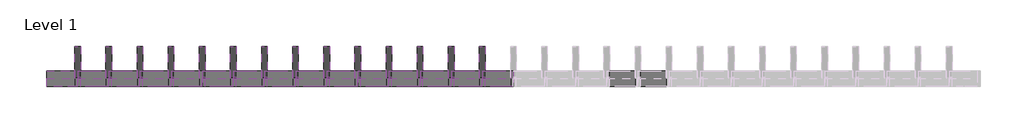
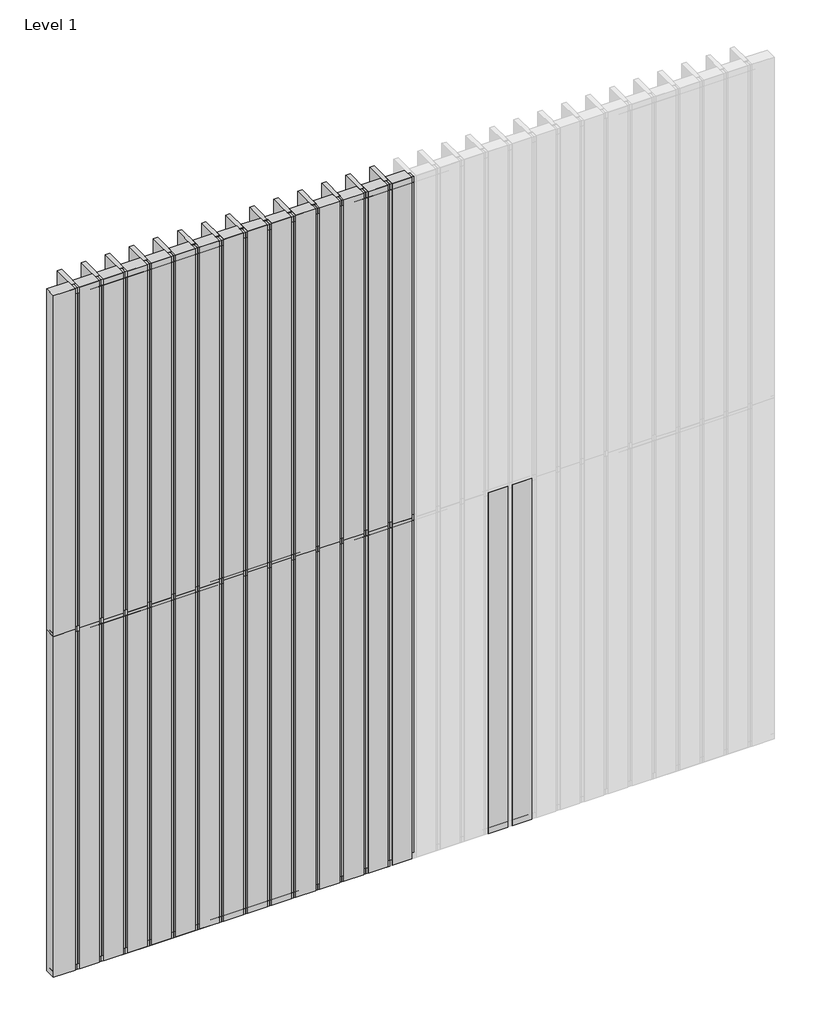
# One storey, part 1 of 2: 72 members, 62 plates.
"""IFC4 building model written with IfcOpenShell, lengths in millimetres."""

from ifc_helpers import new_model, si_unit, origin, place, context, project, spatial, transform, mapped, element, save
from components import rectangular_mullion_20bdfb12, rectangular_mullion_a06afc58, rectangular_mullion_614df7cf, rectangular_mullion_7d91d70c, empty_system_panel_empty_c6c0e791, empty_system_panel_empty_de494967, empty_system_panel_empty_763ef950

model = new_model("IFC4")

# Units and contexts
model_context = context("Model", 3, world=origin())
ifc_project = project(units=[si_unit("LENGTHUNIT", "METRE", prefix="MILLI")], contexts=[model_context])

# Site, building, storey
site = spatial("IfcSite", under=ifc_project)
building = spatial("IfcBuilding", under=site)
storey = spatial("IfcBuildingStorey", under=building, Name="Level 1", Elevation=0.0)

# Members
placement = place(None, origin())
rectangular_mullion_shape = rectangular_mullion_20bdfb12(model_context)
element("IfcMember", 1, ObjectType="Rectangular Mullion : RSen_21_CWM_blade - cubic 200 - 0°_gen_duco projects", at=placement, inside=storey, context=model_context, shape_type="MappedRepresentation", body=[
    mapped(rectangular_mullion_shape, transform((2800.0, 3000.0, 0.0), x_axis=(-1.0, 0.0, 0.0), y_axis=(0.0, 1.0, 0.0), z_axis=(0.0, 0.0, -1.0))),
])
element("IfcMember", 2, ObjectType="Rectangular Mullion : RSen_21_CWM_blade - cubic 200 - 0°_gen_duco projects", at=placement, inside=storey, context=model_context, shape_type="MappedRepresentation", body=[
    mapped(rectangular_mullion_shape, transform((2600.0, 3000.0, 0.0), x_axis=(-1.0, 0.0, 0.0), y_axis=(0.0, 1.0, 0.0), z_axis=(0.0, 0.0, -1.0))),
])
element("IfcMember", 3, ObjectType="Rectangular Mullion : RSen_21_CWM_blade - cubic 200 - 0°_gen_duco projects", at=placement, inside=storey, context=model_context, shape_type="MappedRepresentation", body=[
    mapped(rectangular_mullion_shape, transform((2400.0, 3000.0, 0.0), x_axis=(-1.0, 0.0, 0.0), y_axis=(0.0, 1.0, 0.0), z_axis=(0.0, 0.0, -1.0))),
])
element("IfcMember", 4, ObjectType="Rectangular Mullion : RSen_21_CWM_blade - cubic 200 - 0°_gen_duco projects", at=placement, inside=storey, context=model_context, shape_type="MappedRepresentation", body=[
    mapped(rectangular_mullion_shape, transform((2200.0, 3000.0, 0.0), x_axis=(-1.0, 0.0, 0.0), y_axis=(0.0, 1.0, 0.0), z_axis=(0.0, 0.0, -1.0))),
])
element("IfcMember", 5, ObjectType="Rectangular Mullion : RSen_21_CWM_blade - cubic 200 - 0°_gen_duco projects", at=placement, inside=storey, context=model_context, shape_type="MappedRepresentation", body=[
    mapped(rectangular_mullion_shape, transform((2000.0, 3000.0, 0.0), x_axis=(-1.0, 0.0, 0.0), y_axis=(0.0, 1.0, 0.0), z_axis=(0.0, 0.0, -1.0))),
])
element("IfcMember", 6, ObjectType="Rectangular Mullion : RSen_21_CWM_blade - cubic 200 - 0°_gen_duco projects", at=placement, inside=storey, context=model_context, shape_type="MappedRepresentation", body=[
    mapped(rectangular_mullion_shape, transform((1800.0, 3000.0, 0.0), x_axis=(-1.0, 0.0, 0.0), y_axis=(0.0, 1.0, 0.0), z_axis=(0.0, 0.0, -1.0))),
])
element("IfcMember", 7, ObjectType="Rectangular Mullion : RSen_21_CWM_blade - cubic 200 - 0°_gen_duco projects", at=placement, inside=storey, context=model_context, shape_type="MappedRepresentation", body=[
    mapped(rectangular_mullion_shape, transform((1600.0, 3000.0, 0.0), x_axis=(-1.0, 0.0, 0.0), y_axis=(0.0, 1.0, 0.0), z_axis=(0.0, 0.0, -1.0))),
])
element("IfcMember", 8, ObjectType="Rectangular Mullion : RSen_21_CWM_blade - cubic 200 - 0°_gen_duco projects", at=placement, inside=storey, context=model_context, shape_type="MappedRepresentation", body=[
    mapped(rectangular_mullion_shape, transform((1400.0, 3000.0, 0.0), x_axis=(-1.0, 0.0, 0.0), y_axis=(0.0, 1.0, 0.0), z_axis=(0.0, 0.0, -1.0))),
])
element("IfcMember", 9, ObjectType="Rectangular Mullion : RSen_21_CWM_blade - cubic 200 - 0°_gen_duco projects", at=placement, inside=storey, context=model_context, shape_type="MappedRepresentation", body=[
    mapped(rectangular_mullion_shape, transform((1200.0, 3000.0, 0.0), x_axis=(-1.0, 0.0, 0.0), y_axis=(0.0, 1.0, 0.0), z_axis=(0.0, 0.0, -1.0))),
])
element("IfcMember", 10, ObjectType="Rectangular Mullion : RSen_21_CWM_blade - cubic 200 - 0°_gen_duco projects", at=placement, inside=storey, context=model_context, shape_type="MappedRepresentation", body=[
    mapped(rectangular_mullion_shape, transform((1000.0, 3000.0, 0.0), x_axis=(-1.0, 0.0, 0.0), y_axis=(0.0, 1.0, 0.0), z_axis=(0.0, 0.0, -1.0))),
])
element("IfcMember", 11, ObjectType="Rectangular Mullion : RSen_21_CWM_blade - cubic 200 - 0°_gen_duco projects", at=placement, inside=storey, context=model_context, shape_type="MappedRepresentation", body=[
    mapped(rectangular_mullion_shape, transform((800.0, 3000.0, 0.0), x_axis=(-1.0, 0.0, 0.0), y_axis=(0.0, 1.0, 0.0), z_axis=(0.0, 0.0, -1.0))),
])
element("IfcMember", 12, ObjectType="Rectangular Mullion : RSen_21_CWM_blade - cubic 200 - 0°_gen_duco projects", at=placement, inside=storey, context=model_context, shape_type="MappedRepresentation", body=[
    mapped(rectangular_mullion_shape, transform((600.0, 3000.0, 0.0), x_axis=(-1.0, 0.0, 0.0), y_axis=(0.0, 1.0, 0.0), z_axis=(0.0, 0.0, -1.0))),
])
element("IfcMember", 13, ObjectType="Rectangular Mullion : RSen_21_CWM_blade - cubic 200 - 0°_gen_duco projects", at=placement, inside=storey, context=model_context, shape_type="MappedRepresentation", body=[
    mapped(rectangular_mullion_shape, transform((400.0, 3000.0, 0.0), x_axis=(-1.0, 0.0, 0.0), y_axis=(0.0, 1.0, 0.0), z_axis=(0.0, 0.0, -1.0))),
])
element("IfcMember", 14, ObjectType="Rectangular Mullion : RSen_21_CWM_blade - cubic 200 - 0°_gen_duco projects", at=placement, inside=storey, context=model_context, shape_type="MappedRepresentation", body=[
    mapped(rectangular_mullion_shape, transform((200.0, 3000.0, 0.0), x_axis=(-1.0, 0.0, 0.0), y_axis=(0.0, 1.0, 0.0), z_axis=(0.0, 0.0, -1.0))),
])
element("IfcMember", 15, ObjectType="Rectangular Mullion : RSen_21_CWM_blade - cubic 200 - 0°_gen_duco projects", at=placement, inside=storey, context=model_context, shape_type="MappedRepresentation", body=[
    mapped(rectangular_mullion_shape, transform((2800.0, 3000.0, 3000.0), x_axis=(-1.0, 0.0, 0.0), y_axis=(0.0, 1.0, 0.0), z_axis=(0.0, 0.0, -1.0))),
])
element("IfcMember", 16, ObjectType="Rectangular Mullion : RSen_21_CWM_blade - cubic 200 - 0°_gen_duco projects", at=placement, inside=storey, context=model_context, shape_type="MappedRepresentation", body=[
    mapped(rectangular_mullion_shape, transform((2600.0, 3000.0, 3000.0), x_axis=(-1.0, 0.0, 0.0), y_axis=(0.0, 1.0, 0.0), z_axis=(0.0, 0.0, -1.0))),
])
element("IfcMember", 17, ObjectType="Rectangular Mullion : RSen_21_CWM_blade - cubic 200 - 0°_gen_duco projects", at=placement, inside=storey, context=model_context, shape_type="MappedRepresentation", body=[
    mapped(rectangular_mullion_shape, transform((2400.0, 3000.0, 3000.0), x_axis=(-1.0, 0.0, 0.0), y_axis=(0.0, 1.0, 0.0), z_axis=(0.0, 0.0, -1.0))),
])
element("IfcMember", 18, ObjectType="Rectangular Mullion : RSen_21_CWM_blade - cubic 200 - 0°_gen_duco projects", at=placement, inside=storey, context=model_context, shape_type="MappedRepresentation", body=[
    mapped(rectangular_mullion_shape, transform((2200.0, 3000.0, 3000.0), x_axis=(-1.0, 0.0, 0.0), y_axis=(0.0, 1.0, 0.0), z_axis=(0.0, 0.0, -1.0))),
])
element("IfcMember", 19, ObjectType="Rectangular Mullion : RSen_21_CWM_blade - cubic 200 - 0°_gen_duco projects", at=placement, inside=storey, context=model_context, shape_type="MappedRepresentation", body=[
    mapped(rectangular_mullion_shape, transform((2000.0, 3000.0, 3000.0), x_axis=(-1.0, 0.0, 0.0), y_axis=(0.0, 1.0, 0.0), z_axis=(0.0, 0.0, -1.0))),
])
element("IfcMember", 20, ObjectType="Rectangular Mullion : RSen_21_CWM_blade - cubic 200 - 0°_gen_duco projects", at=placement, inside=storey, context=model_context, shape_type="MappedRepresentation", body=[
    mapped(rectangular_mullion_shape, transform((1800.0, 3000.0, 3000.0), x_axis=(-1.0, 0.0, 0.0), y_axis=(0.0, 1.0, 0.0), z_axis=(0.0, 0.0, -1.0))),
])
element("IfcMember", 21, ObjectType="Rectangular Mullion : RSen_21_CWM_blade - cubic 200 - 0°_gen_duco projects", at=placement, inside=storey, context=model_context, shape_type="MappedRepresentation", body=[
    mapped(rectangular_mullion_shape, transform((1600.0, 3000.0, 3000.0), x_axis=(-1.0, 0.0, 0.0), y_axis=(0.0, 1.0, 0.0), z_axis=(0.0, 0.0, -1.0))),
])
element("IfcMember", 22, ObjectType="Rectangular Mullion : RSen_21_CWM_blade - cubic 200 - 0°_gen_duco projects", at=placement, inside=storey, context=model_context, shape_type="MappedRepresentation", body=[
    mapped(rectangular_mullion_shape, transform((1400.0, 3000.0, 3000.0), x_axis=(-1.0, 0.0, 0.0), y_axis=(0.0, 1.0, 0.0), z_axis=(0.0, 0.0, -1.0))),
])
element("IfcMember", 23, ObjectType="Rectangular Mullion : RSen_21_CWM_blade - cubic 200 - 0°_gen_duco projects", at=placement, inside=storey, context=model_context, shape_type="MappedRepresentation", body=[
    mapped(rectangular_mullion_shape, transform((1200.0, 3000.0, 3000.0), x_axis=(-1.0, 0.0, 0.0), y_axis=(0.0, 1.0, 0.0), z_axis=(0.0, 0.0, -1.0))),
])
element("IfcMember", 24, ObjectType="Rectangular Mullion : RSen_21_CWM_blade - cubic 200 - 0°_gen_duco projects", at=placement, inside=storey, context=model_context, shape_type="MappedRepresentation", body=[
    mapped(rectangular_mullion_shape, transform((1000.0, 3000.0, 3000.0), x_axis=(-1.0, 0.0, 0.0), y_axis=(0.0, 1.0, 0.0), z_axis=(0.0, 0.0, -1.0))),
])
element("IfcMember", 25, ObjectType="Rectangular Mullion : RSen_21_CWM_blade - cubic 200 - 0°_gen_duco projects", at=placement, inside=storey, context=model_context, shape_type="MappedRepresentation", body=[
    mapped(rectangular_mullion_shape, transform((800.0, 3000.0, 3000.0), x_axis=(-1.0, 0.0, 0.0), y_axis=(0.0, 1.0, 0.0), z_axis=(0.0, 0.0, -1.0))),
])
element("IfcMember", 26, ObjectType="Rectangular Mullion : RSen_21_CWM_blade - cubic 200 - 0°_gen_duco projects", at=placement, inside=storey, context=model_context, shape_type="MappedRepresentation", body=[
    mapped(rectangular_mullion_shape, transform((600.0, 3000.0, 3000.0), x_axis=(-1.0, 0.0, 0.0), y_axis=(0.0, 1.0, 0.0), z_axis=(0.0, 0.0, -1.0))),
])
element("IfcMember", 27, ObjectType="Rectangular Mullion : RSen_21_CWM_blade - cubic 200 - 0°_gen_duco projects", at=placement, inside=storey, context=model_context, shape_type="MappedRepresentation", body=[
    mapped(rectangular_mullion_shape, transform((400.0, 3000.0, 3000.0), x_axis=(-1.0, 0.0, 0.0), y_axis=(0.0, 1.0, 0.0), z_axis=(0.0, 0.0, -1.0))),
])
element("IfcMember", 28, ObjectType="Rectangular Mullion : RSen_21_CWM_blade - cubic 200 - 0°_gen_duco projects", at=placement, inside=storey, context=model_context, shape_type="MappedRepresentation", body=[
    mapped(rectangular_mullion_shape, transform((200.0, 3000.0, 3000.0), x_axis=(-1.0, 0.0, 0.0), y_axis=(0.0, 1.0, 0.0), z_axis=(0.0, 0.0, -1.0))),
])
rectangular_mullion_2_shape = rectangular_mullion_a06afc58(model_context)
element("IfcMember", 29, ObjectType="Rectangular Mullion : RSen_21_CWM_support profile 50x50 - left_gen_duco projects", at=placement, inside=storey, context=model_context, shape_type="MappedRepresentation", body=[
    mapped(rectangular_mullion_2_shape, transform((0.0, 3000.0, 6000.0), x_axis=(0.0, 0.0, 1.0), y_axis=(0.0, 1.0, 0.0), z_axis=(-1.0, 0.0, 0.0))),
])
element("IfcMember", 30, ObjectType="Rectangular Mullion : RSen_21_CWM_support profile 50x50 - left_gen_duco projects", at=placement, inside=storey, context=model_context, shape_type="MappedRepresentation", body=[
    mapped(rectangular_mullion_2_shape, transform((2800.0, 3000.0, 6000.0), x_axis=(0.0, 0.0, 1.0), y_axis=(0.0, 1.0, 0.0), z_axis=(-1.0, 0.0, 0.0))),
])
element("IfcMember", 31, ObjectType="Rectangular Mullion : RSen_21_CWM_support profile 50x50 - left_gen_duco projects", at=placement, inside=storey, context=model_context, shape_type="MappedRepresentation", body=[
    mapped(rectangular_mullion_2_shape, transform((2600.0, 3000.0, 6000.0), x_axis=(0.0, 0.0, 1.0), y_axis=(0.0, 1.0, 0.0), z_axis=(-1.0, 0.0, 0.0))),
])
element("IfcMember", 32, ObjectType="Rectangular Mullion : RSen_21_CWM_support profile 50x50 - left_gen_duco projects", at=placement, inside=storey, context=model_context, shape_type="MappedRepresentation", body=[
    mapped(rectangular_mullion_2_shape, transform((2400.0, 3000.0, 6000.0), x_axis=(0.0, 0.0, 1.0), y_axis=(0.0, 1.0, 0.0), z_axis=(-1.0, 0.0, 0.0))),
])
element("IfcMember", 33, ObjectType="Rectangular Mullion : RSen_21_CWM_support profile 50x50 - left_gen_duco projects", at=placement, inside=storey, context=model_context, shape_type="MappedRepresentation", body=[
    mapped(rectangular_mullion_2_shape, transform((2200.0, 3000.0, 6000.0), x_axis=(0.0, 0.0, 1.0), y_axis=(0.0, 1.0, 0.0), z_axis=(-1.0, 0.0, 0.0))),
])
element("IfcMember", 34, ObjectType="Rectangular Mullion : RSen_21_CWM_support profile 50x50 - left_gen_duco projects", at=placement, inside=storey, context=model_context, shape_type="MappedRepresentation", body=[
    mapped(rectangular_mullion_2_shape, transform((2000.0, 3000.0, 6000.0), x_axis=(0.0, 0.0, 1.0), y_axis=(0.0, 1.0, 0.0), z_axis=(-1.0, 0.0, 0.0))),
])
element("IfcMember", 35, ObjectType="Rectangular Mullion : RSen_21_CWM_support profile 50x50 - left_gen_duco projects", at=placement, inside=storey, context=model_context, shape_type="MappedRepresentation", body=[
    mapped(rectangular_mullion_2_shape, transform((1800.0, 3000.0, 6000.0), x_axis=(0.0, 0.0, 1.0), y_axis=(0.0, 1.0, 0.0), z_axis=(-1.0, 0.0, 0.0))),
])
element("IfcMember", 36, ObjectType="Rectangular Mullion : RSen_21_CWM_support profile 50x50 - left_gen_duco projects", at=placement, inside=storey, context=model_context, shape_type="MappedRepresentation", body=[
    mapped(rectangular_mullion_2_shape, transform((1600.0, 3000.0, 6000.0), x_axis=(0.0, 0.0, 1.0), y_axis=(0.0, 1.0, 0.0), z_axis=(-1.0, 0.0, 0.0))),
])
element("IfcMember", 37, ObjectType="Rectangular Mullion : RSen_21_CWM_support profile 50x50 - left_gen_duco projects", at=placement, inside=storey, context=model_context, shape_type="MappedRepresentation", body=[
    mapped(rectangular_mullion_2_shape, transform((1400.0, 3000.0, 6000.0), x_axis=(0.0, 0.0, 1.0), y_axis=(0.0, 1.0, 0.0), z_axis=(-1.0, 0.0, 0.0))),
])
element("IfcMember", 38, ObjectType="Rectangular Mullion : RSen_21_CWM_support profile 50x50 - left_gen_duco projects", at=placement, inside=storey, context=model_context, shape_type="MappedRepresentation", body=[
    mapped(rectangular_mullion_2_shape, transform((1200.0, 3000.0, 6000.0), x_axis=(0.0, 0.0, 1.0), y_axis=(0.0, 1.0, 0.0), z_axis=(-1.0, 0.0, 0.0))),
])
element("IfcMember", 39, ObjectType="Rectangular Mullion : RSen_21_CWM_support profile 50x50 - left_gen_duco projects", at=placement, inside=storey, context=model_context, shape_type="MappedRepresentation", body=[
    mapped(rectangular_mullion_2_shape, transform((1000.0, 3000.0, 6000.0), x_axis=(0.0, 0.0, 1.0), y_axis=(0.0, 1.0, 0.0), z_axis=(-1.0, 0.0, 0.0))),
])
element("IfcMember", 40, ObjectType="Rectangular Mullion : RSen_21_CWM_support profile 50x50 - left_gen_duco projects", at=placement, inside=storey, context=model_context, shape_type="MappedRepresentation", body=[
    mapped(rectangular_mullion_2_shape, transform((800.0, 3000.0, 6000.0), x_axis=(0.0, 0.0, 1.0), y_axis=(0.0, 1.0, 0.0), z_axis=(-1.0, 0.0, 0.0))),
])
element("IfcMember", 41, ObjectType="Rectangular Mullion : RSen_21_CWM_support profile 50x50 - left_gen_duco projects", at=placement, inside=storey, context=model_context, shape_type="MappedRepresentation", body=[
    mapped(rectangular_mullion_2_shape, transform((600.0, 3000.0, 6000.0), x_axis=(0.0, 0.0, 1.0), y_axis=(0.0, 1.0, 0.0), z_axis=(-1.0, 0.0, 0.0))),
])
element("IfcMember", 42, ObjectType="Rectangular Mullion : RSen_21_CWM_support profile 50x50 - left_gen_duco projects", at=placement, inside=storey, context=model_context, shape_type="MappedRepresentation", body=[
    mapped(rectangular_mullion_2_shape, transform((400.0, 3000.0, 6000.0), x_axis=(0.0, 0.0, 1.0), y_axis=(0.0, 1.0, 0.0), z_axis=(-1.0, 0.0, 0.0))),
])
element("IfcMember", 43, ObjectType="Rectangular Mullion : RSen_21_CWM_support profile 50x50 - left_gen_duco projects", at=placement, inside=storey, context=model_context, shape_type="MappedRepresentation", body=[
    mapped(rectangular_mullion_2_shape, transform((200.0, 3000.0, 6000.0), x_axis=(0.0, 0.0, 1.0), y_axis=(0.0, 1.0, 0.0), z_axis=(-1.0, 0.0, 0.0))),
])
rectangular_mullion_3_shape = rectangular_mullion_614df7cf(model_context)
element("IfcMember", 44, ObjectType="Rectangular Mullion : RSen_21_CWM_support profile 50x50 - right_gen_duco projects", at=placement, inside=storey, context=model_context, shape_type="MappedRepresentation", body=[
    mapped(rectangular_mullion_3_shape, transform((2800.0, 3000.0, 0.0), x_axis=(0.0, 0.0, -1.0), y_axis=(0.0, 1.0, 0.0), z_axis=(1.0, 0.0, 0.0))),
])
element("IfcMember", 45, ObjectType="Rectangular Mullion : RSen_21_CWM_support profile 50x50 - right_gen_duco projects", at=placement, inside=storey, context=model_context, shape_type="MappedRepresentation", body=[
    mapped(rectangular_mullion_3_shape, transform((2600.0, 3000.0, 0.0), x_axis=(0.0, 0.0, -1.0), y_axis=(0.0, 1.0, 0.0), z_axis=(1.0, 0.0, 0.0))),
])
element("IfcMember", 46, ObjectType="Rectangular Mullion : RSen_21_CWM_support profile 50x50 - right_gen_duco projects", at=placement, inside=storey, context=model_context, shape_type="MappedRepresentation", body=[
    mapped(rectangular_mullion_3_shape, transform((2400.0, 3000.0, 0.0), x_axis=(0.0, 0.0, -1.0), y_axis=(0.0, 1.0, 0.0), z_axis=(1.0, 0.0, 0.0))),
])
element("IfcMember", 47, ObjectType="Rectangular Mullion : RSen_21_CWM_support profile 50x50 - right_gen_duco projects", at=placement, inside=storey, context=model_context, shape_type="MappedRepresentation", body=[
    mapped(rectangular_mullion_3_shape, transform((2200.0, 3000.0, 0.0), x_axis=(0.0, 0.0, -1.0), y_axis=(0.0, 1.0, 0.0), z_axis=(1.0, 0.0, 0.0))),
])
element("IfcMember", 48, ObjectType="Rectangular Mullion : RSen_21_CWM_support profile 50x50 - right_gen_duco projects", at=placement, inside=storey, context=model_context, shape_type="MappedRepresentation", body=[
    mapped(rectangular_mullion_3_shape, transform((2000.0, 3000.0, 0.0), x_axis=(0.0, 0.0, -1.0), y_axis=(0.0, 1.0, 0.0), z_axis=(1.0, 0.0, 0.0))),
])
element("IfcMember", 49, ObjectType="Rectangular Mullion : RSen_21_CWM_support profile 50x50 - right_gen_duco projects", at=placement, inside=storey, context=model_context, shape_type="MappedRepresentation", body=[
    mapped(rectangular_mullion_3_shape, transform((1800.0, 3000.0, 0.0), x_axis=(0.0, 0.0, -1.0), y_axis=(0.0, 1.0, 0.0), z_axis=(1.0, 0.0, 0.0))),
])
element("IfcMember", 50, ObjectType="Rectangular Mullion : RSen_21_CWM_support profile 50x50 - right_gen_duco projects", at=placement, inside=storey, context=model_context, shape_type="MappedRepresentation", body=[
    mapped(rectangular_mullion_3_shape, transform((1600.0, 3000.0, 0.0), x_axis=(0.0, 0.0, -1.0), y_axis=(0.0, 1.0, 0.0), z_axis=(1.0, 0.0, 0.0))),
])
element("IfcMember", 51, ObjectType="Rectangular Mullion : RSen_21_CWM_support profile 50x50 - right_gen_duco projects", at=placement, inside=storey, context=model_context, shape_type="MappedRepresentation", body=[
    mapped(rectangular_mullion_3_shape, transform((1400.0, 3000.0, 0.0), x_axis=(0.0, 0.0, -1.0), y_axis=(0.0, 1.0, 0.0), z_axis=(1.0, 0.0, 0.0))),
])
element("IfcMember", 52, ObjectType="Rectangular Mullion : RSen_21_CWM_support profile 50x50 - right_gen_duco projects", at=placement, inside=storey, context=model_context, shape_type="MappedRepresentation", body=[
    mapped(rectangular_mullion_3_shape, transform((1200.0, 3000.0, 0.0), x_axis=(0.0, 0.0, -1.0), y_axis=(0.0, 1.0, 0.0), z_axis=(1.0, 0.0, 0.0))),
])
element("IfcMember", 53, ObjectType="Rectangular Mullion : RSen_21_CWM_support profile 50x50 - right_gen_duco projects", at=placement, inside=storey, context=model_context, shape_type="MappedRepresentation", body=[
    mapped(rectangular_mullion_3_shape, transform((1000.0, 3000.0, 0.0), x_axis=(0.0, 0.0, -1.0), y_axis=(0.0, 1.0, 0.0), z_axis=(1.0, 0.0, 0.0))),
])
element("IfcMember", 54, ObjectType="Rectangular Mullion : RSen_21_CWM_support profile 50x50 - right_gen_duco projects", at=placement, inside=storey, context=model_context, shape_type="MappedRepresentation", body=[
    mapped(rectangular_mullion_3_shape, transform((800.0, 3000.0, 0.0), x_axis=(0.0, 0.0, -1.0), y_axis=(0.0, 1.0, 0.0), z_axis=(1.0, 0.0, 0.0))),
])
element("IfcMember", 55, ObjectType="Rectangular Mullion : RSen_21_CWM_support profile 50x50 - right_gen_duco projects", at=placement, inside=storey, context=model_context, shape_type="MappedRepresentation", body=[
    mapped(rectangular_mullion_3_shape, transform((600.0, 3000.0, 0.0), x_axis=(0.0, 0.0, -1.0), y_axis=(0.0, 1.0, 0.0), z_axis=(1.0, 0.0, 0.0))),
])
element("IfcMember", 56, ObjectType="Rectangular Mullion : RSen_21_CWM_support profile 50x50 - right_gen_duco projects", at=placement, inside=storey, context=model_context, shape_type="MappedRepresentation", body=[
    mapped(rectangular_mullion_3_shape, transform((400.0, 3000.0, 0.0), x_axis=(0.0, 0.0, -1.0), y_axis=(0.0, 1.0, 0.0), z_axis=(1.0, 0.0, 0.0))),
])
element("IfcMember", 57, ObjectType="Rectangular Mullion : RSen_21_CWM_support profile 50x50 - right_gen_duco projects", at=placement, inside=storey, context=model_context, shape_type="MappedRepresentation", body=[
    mapped(rectangular_mullion_3_shape, transform((200.0, 3000.0, 0.0), x_axis=(0.0, 0.0, -1.0), y_axis=(0.0, 1.0, 0.0), z_axis=(1.0, 0.0, 0.0))),
])
rectangular_mullion_4_shape = rectangular_mullion_7d91d70c(model_context)
element("IfcMember", 58, ObjectType="Rectangular Mullion : RSen_21_CWM_support profile 50x50_gen_duco projects", at=placement, inside=storey, context=model_context, shape_type="MappedRepresentation", body=[
    mapped(rectangular_mullion_4_shape, transform((2800.0, 3000.0, 3000.0), x_axis=(0.0, 0.0, 1.0), y_axis=(0.0, 1.0, 0.0), z_axis=(-1.0, 0.0, 0.0))),
])
element("IfcMember", 59, ObjectType="Rectangular Mullion : RSen_21_CWM_support profile 50x50_gen_duco projects", at=placement, inside=storey, context=model_context, shape_type="MappedRepresentation", body=[
    mapped(rectangular_mullion_4_shape, transform((2600.0, 3000.0, 3000.0), x_axis=(0.0, 0.0, 1.0), y_axis=(0.0, 1.0, 0.0), z_axis=(-1.0, 0.0, 0.0))),
])
element("IfcMember", 60, ObjectType="Rectangular Mullion : RSen_21_CWM_support profile 50x50_gen_duco projects", at=placement, inside=storey, context=model_context, shape_type="MappedRepresentation", body=[
    mapped(rectangular_mullion_4_shape, transform((2400.0, 3000.0, 3000.0), x_axis=(0.0, 0.0, 1.0), y_axis=(0.0, 1.0, 0.0), z_axis=(-1.0, 0.0, 0.0))),
])
element("IfcMember", 61, ObjectType="Rectangular Mullion : RSen_21_CWM_support profile 50x50_gen_duco projects", at=placement, inside=storey, context=model_context, shape_type="MappedRepresentation", body=[
    mapped(rectangular_mullion_4_shape, transform((2200.0, 3000.0, 3000.0), x_axis=(0.0, 0.0, 1.0), y_axis=(0.0, 1.0, 0.0), z_axis=(-1.0, 0.0, 0.0))),
])
element("IfcMember", 62, ObjectType="Rectangular Mullion : RSen_21_CWM_support profile 50x50_gen_duco projects", at=placement, inside=storey, context=model_context, shape_type="MappedRepresentation", body=[
    mapped(rectangular_mullion_4_shape, transform((2000.0, 3000.0, 3000.0), x_axis=(0.0, 0.0, 1.0), y_axis=(0.0, 1.0, 0.0), z_axis=(-1.0, 0.0, 0.0))),
])
element("IfcMember", 63, ObjectType="Rectangular Mullion : RSen_21_CWM_support profile 50x50_gen_duco projects", at=placement, inside=storey, context=model_context, shape_type="MappedRepresentation", body=[
    mapped(rectangular_mullion_4_shape, transform((1800.0, 3000.0, 3000.0), x_axis=(0.0, 0.0, 1.0), y_axis=(0.0, 1.0, 0.0), z_axis=(-1.0, 0.0, 0.0))),
])
element("IfcMember", 64, ObjectType="Rectangular Mullion : RSen_21_CWM_support profile 50x50_gen_duco projects", at=placement, inside=storey, context=model_context, shape_type="MappedRepresentation", body=[
    mapped(rectangular_mullion_4_shape, transform((1600.0, 3000.0, 3000.0), x_axis=(0.0, 0.0, 1.0), y_axis=(0.0, 1.0, 0.0), z_axis=(-1.0, 0.0, 0.0))),
])
element("IfcMember", 65, ObjectType="Rectangular Mullion : RSen_21_CWM_support profile 50x50_gen_duco projects", at=placement, inside=storey, context=model_context, shape_type="MappedRepresentation", body=[
    mapped(rectangular_mullion_4_shape, transform((1400.0, 3000.0, 3000.0), x_axis=(0.0, 0.0, 1.0), y_axis=(0.0, 1.0, 0.0), z_axis=(-1.0, 0.0, 0.0))),
])
element("IfcMember", 66, ObjectType="Rectangular Mullion : RSen_21_CWM_support profile 50x50_gen_duco projects", at=placement, inside=storey, context=model_context, shape_type="MappedRepresentation", body=[
    mapped(rectangular_mullion_4_shape, transform((1200.0, 3000.0, 3000.0), x_axis=(0.0, 0.0, 1.0), y_axis=(0.0, 1.0, 0.0), z_axis=(-1.0, 0.0, 0.0))),
])
element("IfcMember", 67, ObjectType="Rectangular Mullion : RSen_21_CWM_support profile 50x50_gen_duco projects", at=placement, inside=storey, context=model_context, shape_type="MappedRepresentation", body=[
    mapped(rectangular_mullion_4_shape, transform((1000.0, 3000.0, 3000.0), x_axis=(0.0, 0.0, 1.0), y_axis=(0.0, 1.0, 0.0), z_axis=(-1.0, 0.0, 0.0))),
])
element("IfcMember", 68, ObjectType="Rectangular Mullion : RSen_21_CWM_support profile 50x50_gen_duco projects", at=placement, inside=storey, context=model_context, shape_type="MappedRepresentation", body=[
    mapped(rectangular_mullion_4_shape, transform((800.0, 3000.0, 3000.0), x_axis=(0.0, 0.0, 1.0), y_axis=(0.0, 1.0, 0.0), z_axis=(-1.0, 0.0, 0.0))),
])
element("IfcMember", 69, ObjectType="Rectangular Mullion : RSen_21_CWM_support profile 50x50_gen_duco projects", at=placement, inside=storey, context=model_context, shape_type="MappedRepresentation", body=[
    mapped(rectangular_mullion_4_shape, transform((600.0, 3000.0, 3000.0), x_axis=(0.0, 0.0, 1.0), y_axis=(0.0, 1.0, 0.0), z_axis=(-1.0, 0.0, 0.0))),
])
element("IfcMember", 70, ObjectType="Rectangular Mullion : RSen_21_CWM_support profile 50x50_gen_duco projects", at=placement, inside=storey, context=model_context, shape_type="MappedRepresentation", body=[
    mapped(rectangular_mullion_4_shape, transform((400.0, 3000.0, 3000.0), x_axis=(0.0, 0.0, 1.0), y_axis=(0.0, 1.0, 0.0), z_axis=(-1.0, 0.0, 0.0))),
])
element("IfcMember", 71, ObjectType="Rectangular Mullion : RSen_21_CWM_support profile 50x50_gen_duco projects", at=placement, inside=storey, context=model_context, shape_type="MappedRepresentation", body=[
    mapped(rectangular_mullion_4_shape, transform((200.0, 3000.0, 3000.0), x_axis=(0.0, 0.0, 1.0), y_axis=(0.0, 1.0, 0.0), z_axis=(-1.0, 0.0, 0.0))),
])
element("IfcMember", 72, ObjectType="Rectangular Mullion : RSen_21_CWM_support profile 50x50_gen_duco projects", at=placement, inside=storey, context=model_context, shape_type="MappedRepresentation", body=[
    mapped(rectangular_mullion_4_shape, transform((0.0, 3000.0, 3000.0), x_axis=(0.0, 0.0, 1.0), y_axis=(0.0, 1.0, 0.0), z_axis=(-1.0, 0.0, 0.0))),
])

# Plates
empty_system_panel_empty_shape = empty_system_panel_empty_c6c0e791(model_context)
element("IfcPlate", 73, ObjectType="Empty System Panel : Empty", at=placement, inside=storey, context=model_context, shape_type="MappedRepresentation", body=[
    mapped(empty_system_panel_empty_shape, transform((90.75, 3000.0, 0.0), x_axis=(-1.0, 0.0, 0.0), y_axis=(0.0, -1.0, 0.0), z_axis=(0.0, 0.0, 1.0))),
])
element("IfcPlate", 74, ObjectType="Empty System Panel : Empty", at=placement, inside=storey, context=model_context, shape_type="MappedRepresentation", body=[
    mapped(empty_system_panel_empty_shape, transform((90.75, 3000.0, 3000.0), x_axis=(-1.0, 0.0, 0.0), y_axis=(0.0, -1.0, 0.0), z_axis=(0.0, 0.0, 1.0))),
])
empty_system_panel_empty_2_shape = empty_system_panel_empty_de494967(model_context)
element("IfcPlate", 75, ObjectType="Empty System Panel : Empty", at=placement, inside=storey, context=model_context, shape_type="MappedRepresentation", body=[
    mapped(empty_system_panel_empty_2_shape, transform((3900.0, 3000.0, 0.0), x_axis=(-1.0, 0.0, 0.0), y_axis=(0.0, -1.0, 0.0), z_axis=(0.0, 0.0, 1.0))),
])
element("IfcPlate", 76, ObjectType="Empty System Panel : Empty", at=placement, inside=storey, context=model_context, shape_type="MappedRepresentation", body=[
    mapped(empty_system_panel_empty_2_shape, transform((3700.0, 3000.0, 0.0), x_axis=(-1.0, 0.0, 0.0), y_axis=(0.0, -1.0, 0.0), z_axis=(0.0, 0.0, 1.0))),
])
element("IfcPlate", 77, ObjectType="Empty System Panel : Empty", at=placement, inside=storey, context=model_context, shape_type="MappedRepresentation", body=[
    mapped(empty_system_panel_empty_2_shape, transform((2900.0, 3000.0, 0.0), x_axis=(-1.0, 0.0, 0.0), y_axis=(0.0, -1.0, 0.0), z_axis=(0.0, 0.0, 1.0))),
])
element("IfcPlate", 78, ObjectType="Empty System Panel : Empty", at=placement, inside=storey, context=model_context, shape_type="MappedRepresentation", body=[
    mapped(empty_system_panel_empty_2_shape, transform((2700.0, 3000.0, 0.0), x_axis=(-1.0, 0.0, 0.0), y_axis=(0.0, -1.0, 0.0), z_axis=(0.0, 0.0, 1.0))),
])
element("IfcPlate", 79, ObjectType="Empty System Panel : Empty", at=placement, inside=storey, context=model_context, shape_type="MappedRepresentation", body=[
    mapped(empty_system_panel_empty_2_shape, transform((2500.0, 3000.0, 0.0), x_axis=(-1.0, 0.0, 0.0), y_axis=(0.0, -1.0, 0.0), z_axis=(0.0, 0.0, 1.0))),
])
element("IfcPlate", 80, ObjectType="Empty System Panel : Empty", at=placement, inside=storey, context=model_context, shape_type="MappedRepresentation", body=[
    mapped(empty_system_panel_empty_2_shape, transform((2300.0, 3000.0, 0.0), x_axis=(-1.0, 0.0, 0.0), y_axis=(0.0, -1.0, 0.0), z_axis=(0.0, 0.0, 1.0))),
])
element("IfcPlate", 81, ObjectType="Empty System Panel : Empty", at=placement, inside=storey, context=model_context, shape_type="MappedRepresentation", body=[
    mapped(empty_system_panel_empty_2_shape, transform((2100.0, 3000.0, 0.0), x_axis=(-1.0, 0.0, 0.0), y_axis=(0.0, -1.0, 0.0), z_axis=(0.0, 0.0, 1.0))),
])
element("IfcPlate", 82, ObjectType="Empty System Panel : Empty", at=placement, inside=storey, context=model_context, shape_type="MappedRepresentation", body=[
    mapped(empty_system_panel_empty_2_shape, transform((1900.0, 3000.0, 0.0), x_axis=(-1.0, 0.0, 0.0), y_axis=(0.0, -1.0, 0.0), z_axis=(0.0, 0.0, 1.0))),
])
element("IfcPlate", 83, ObjectType="Empty System Panel : Empty", at=placement, inside=storey, context=model_context, shape_type="MappedRepresentation", body=[
    mapped(empty_system_panel_empty_2_shape, transform((1700.0, 3000.0, 0.0), x_axis=(-1.0, 0.0, 0.0), y_axis=(0.0, -1.0, 0.0), z_axis=(0.0, 0.0, 1.0))),
])
element("IfcPlate", 84, ObjectType="Empty System Panel : Empty", at=placement, inside=storey, context=model_context, shape_type="MappedRepresentation", body=[
    mapped(empty_system_panel_empty_2_shape, transform((1500.0, 3000.0, 0.0), x_axis=(-1.0, 0.0, 0.0), y_axis=(0.0, -1.0, 0.0), z_axis=(0.0, 0.0, 1.0))),
])
element("IfcPlate", 85, ObjectType="Empty System Panel : Empty", at=placement, inside=storey, context=model_context, shape_type="MappedRepresentation", body=[
    mapped(empty_system_panel_empty_2_shape, transform((1300.0, 3000.0, 0.0), x_axis=(-1.0, 0.0, 0.0), y_axis=(0.0, -1.0, 0.0), z_axis=(0.0, 0.0, 1.0))),
])
element("IfcPlate", 86, ObjectType="Empty System Panel : Empty", at=placement, inside=storey, context=model_context, shape_type="MappedRepresentation", body=[
    mapped(empty_system_panel_empty_2_shape, transform((1100.0, 3000.0, 0.0), x_axis=(-1.0, 0.0, 0.0), y_axis=(0.0, -1.0, 0.0), z_axis=(0.0, 0.0, 1.0))),
])
element("IfcPlate", 87, ObjectType="Empty System Panel : Empty", at=placement, inside=storey, context=model_context, shape_type="MappedRepresentation", body=[
    mapped(empty_system_panel_empty_2_shape, transform((900.0, 3000.0, 0.0), x_axis=(-1.0, 0.0, 0.0), y_axis=(0.0, -1.0, 0.0), z_axis=(0.0, 0.0, 1.0))),
])
element("IfcPlate", 88, ObjectType="Empty System Panel : Empty", at=placement, inside=storey, context=model_context, shape_type="MappedRepresentation", body=[
    mapped(empty_system_panel_empty_2_shape, transform((700.0, 3000.0, 0.0), x_axis=(-1.0, 0.0, 0.0), y_axis=(0.0, -1.0, 0.0), z_axis=(0.0, 0.0, 1.0))),
])
element("IfcPlate", 89, ObjectType="Empty System Panel : Empty", at=placement, inside=storey, context=model_context, shape_type="MappedRepresentation", body=[
    mapped(empty_system_panel_empty_2_shape, transform((500.0, 3000.0, 0.0), x_axis=(-1.0, 0.0, 0.0), y_axis=(0.0, -1.0, 0.0), z_axis=(0.0, 0.0, 1.0))),
])
element("IfcPlate", 90, ObjectType="Empty System Panel : Empty", at=placement, inside=storey, context=model_context, shape_type="MappedRepresentation", body=[
    mapped(empty_system_panel_empty_2_shape, transform((300.0, 3000.0, 0.0), x_axis=(-1.0, 0.0, 0.0), y_axis=(0.0, -1.0, 0.0), z_axis=(0.0, 0.0, 1.0))),
])
element("IfcPlate", 91, ObjectType="Empty System Panel : Empty", at=placement, inside=storey, context=model_context, shape_type="MappedRepresentation", body=[
    mapped(empty_system_panel_empty_2_shape, transform((2900.0, 3000.0, 3000.0), x_axis=(-1.0, 0.0, 0.0), y_axis=(0.0, -1.0, 0.0), z_axis=(0.0, 0.0, 1.0))),
])
element("IfcPlate", 92, ObjectType="Empty System Panel : Empty", at=placement, inside=storey, context=model_context, shape_type="MappedRepresentation", body=[
    mapped(empty_system_panel_empty_2_shape, transform((2700.0, 3000.0, 3000.0), x_axis=(-1.0, 0.0, 0.0), y_axis=(0.0, -1.0, 0.0), z_axis=(0.0, 0.0, 1.0))),
])
element("IfcPlate", 93, ObjectType="Empty System Panel : Empty", at=placement, inside=storey, context=model_context, shape_type="MappedRepresentation", body=[
    mapped(empty_system_panel_empty_2_shape, transform((2500.0, 3000.0, 3000.0), x_axis=(-1.0, 0.0, 0.0), y_axis=(0.0, -1.0, 0.0), z_axis=(0.0, 0.0, 1.0))),
])
element("IfcPlate", 94, ObjectType="Empty System Panel : Empty", at=placement, inside=storey, context=model_context, shape_type="MappedRepresentation", body=[
    mapped(empty_system_panel_empty_2_shape, transform((2300.0, 3000.0, 3000.0), x_axis=(-1.0, 0.0, 0.0), y_axis=(0.0, -1.0, 0.0), z_axis=(0.0, 0.0, 1.0))),
])
element("IfcPlate", 95, ObjectType="Empty System Panel : Empty", at=placement, inside=storey, context=model_context, shape_type="MappedRepresentation", body=[
    mapped(empty_system_panel_empty_2_shape, transform((2100.0, 3000.0, 3000.0), x_axis=(-1.0, 0.0, 0.0), y_axis=(0.0, -1.0, 0.0), z_axis=(0.0, 0.0, 1.0))),
])
element("IfcPlate", 96, ObjectType="Empty System Panel : Empty", at=placement, inside=storey, context=model_context, shape_type="MappedRepresentation", body=[
    mapped(empty_system_panel_empty_2_shape, transform((1900.0, 3000.0, 3000.0), x_axis=(-1.0, 0.0, 0.0), y_axis=(0.0, -1.0, 0.0), z_axis=(0.0, 0.0, 1.0))),
])
element("IfcPlate", 97, ObjectType="Empty System Panel : Empty", at=placement, inside=storey, context=model_context, shape_type="MappedRepresentation", body=[
    mapped(empty_system_panel_empty_2_shape, transform((1700.0, 3000.0, 3000.0), x_axis=(-1.0, 0.0, 0.0), y_axis=(0.0, -1.0, 0.0), z_axis=(0.0, 0.0, 1.0))),
])
element("IfcPlate", 98, ObjectType="Empty System Panel : Empty", at=placement, inside=storey, context=model_context, shape_type="MappedRepresentation", body=[
    mapped(empty_system_panel_empty_2_shape, transform((1500.0, 3000.0, 3000.0), x_axis=(-1.0, 0.0, 0.0), y_axis=(0.0, -1.0, 0.0), z_axis=(0.0, 0.0, 1.0))),
])
element("IfcPlate", 99, ObjectType="Empty System Panel : Empty", at=placement, inside=storey, context=model_context, shape_type="MappedRepresentation", body=[
    mapped(empty_system_panel_empty_2_shape, transform((1300.0, 3000.0, 3000.0), x_axis=(-1.0, 0.0, 0.0), y_axis=(0.0, -1.0, 0.0), z_axis=(0.0, 0.0, 1.0))),
])
element("IfcPlate", 100, ObjectType="Empty System Panel : Empty", at=placement, inside=storey, context=model_context, shape_type="MappedRepresentation", body=[
    mapped(empty_system_panel_empty_2_shape, transform((1100.0, 3000.0, 3000.0), x_axis=(-1.0, 0.0, 0.0), y_axis=(0.0, -1.0, 0.0), z_axis=(0.0, 0.0, 1.0))),
])
element("IfcPlate", 101, ObjectType="Empty System Panel : Empty", at=placement, inside=storey, context=model_context, shape_type="MappedRepresentation", body=[
    mapped(empty_system_panel_empty_2_shape, transform((900.0, 3000.0, 3000.0), x_axis=(-1.0, 0.0, 0.0), y_axis=(0.0, -1.0, 0.0), z_axis=(0.0, 0.0, 1.0))),
])
element("IfcPlate", 102, ObjectType="Empty System Panel : Empty", at=placement, inside=storey, context=model_context, shape_type="MappedRepresentation", body=[
    mapped(empty_system_panel_empty_2_shape, transform((700.0, 3000.0, 3000.0), x_axis=(-1.0, 0.0, 0.0), y_axis=(0.0, -1.0, 0.0), z_axis=(0.0, 0.0, 1.0))),
])
element("IfcPlate", 103, ObjectType="Empty System Panel : Empty", at=placement, inside=storey, context=model_context, shape_type="MappedRepresentation", body=[
    mapped(empty_system_panel_empty_2_shape, transform((500.0, 3000.0, 3000.0), x_axis=(-1.0, 0.0, 0.0), y_axis=(0.0, -1.0, 0.0), z_axis=(0.0, 0.0, 1.0))),
])
element("IfcPlate", 104, ObjectType="Empty System Panel : Empty", at=placement, inside=storey, context=model_context, shape_type="MappedRepresentation", body=[
    mapped(empty_system_panel_empty_2_shape, transform((300.0, 3000.0, 3000.0), x_axis=(-1.0, 0.0, 0.0), y_axis=(0.0, -1.0, 0.0), z_axis=(0.0, 0.0, 1.0))),
])
empty_system_panel_empty_3_shape = empty_system_panel_empty_763ef950(model_context)
element("IfcPlate", 105, ObjectType="Empty System Panel : Empty", at=placement, inside=storey, context=model_context, shape_type="MappedRepresentation", body=[
    mapped(empty_system_panel_empty_3_shape, transform((2900.0, 3000.0, 50.0), x_axis=(-1.0, 0.0, 0.0), y_axis=(0.0, -1.0, 0.0), z_axis=(0.0, 0.0, 1.0))),
])
element("IfcPlate", 106, ObjectType="Empty System Panel : Empty", at=placement, inside=storey, context=model_context, shape_type="MappedRepresentation", body=[
    mapped(empty_system_panel_empty_3_shape, transform((2700.0, 3000.0, 50.0), x_axis=(-1.0, 0.0, 0.0), y_axis=(0.0, -1.0, 0.0), z_axis=(0.0, 0.0, 1.0))),
])
element("IfcPlate", 107, ObjectType="Empty System Panel : Empty", at=placement, inside=storey, context=model_context, shape_type="MappedRepresentation", body=[
    mapped(empty_system_panel_empty_3_shape, transform((2500.0, 3000.0, 50.0), x_axis=(-1.0, 0.0, 0.0), y_axis=(0.0, -1.0, 0.0), z_axis=(0.0, 0.0, 1.0))),
])
element("IfcPlate", 108, ObjectType="Empty System Panel : Empty", at=placement, inside=storey, context=model_context, shape_type="MappedRepresentation", body=[
    mapped(empty_system_panel_empty_3_shape, transform((2300.0, 3000.0, 50.0), x_axis=(-1.0, 0.0, 0.0), y_axis=(0.0, -1.0, 0.0), z_axis=(0.0, 0.0, 1.0))),
])
element("IfcPlate", 109, ObjectType="Empty System Panel : Empty", at=placement, inside=storey, context=model_context, shape_type="MappedRepresentation", body=[
    mapped(empty_system_panel_empty_3_shape, transform((2100.0, 3000.0, 50.0), x_axis=(-1.0, 0.0, 0.0), y_axis=(0.0, -1.0, 0.0), z_axis=(0.0, 0.0, 1.0))),
])
element("IfcPlate", 110, ObjectType="Empty System Panel : Empty", at=placement, inside=storey, context=model_context, shape_type="MappedRepresentation", body=[
    mapped(empty_system_panel_empty_3_shape, transform((1900.0, 3000.0, 50.0), x_axis=(-1.0, 0.0, 0.0), y_axis=(0.0, -1.0, 0.0), z_axis=(0.0, 0.0, 1.0))),
])
element("IfcPlate", 111, ObjectType="Empty System Panel : Empty", at=placement, inside=storey, context=model_context, shape_type="MappedRepresentation", body=[
    mapped(empty_system_panel_empty_3_shape, transform((1700.0, 3000.0, 50.0), x_axis=(-1.0, 0.0, 0.0), y_axis=(0.0, -1.0, 0.0), z_axis=(0.0, 0.0, 1.0))),
])
element("IfcPlate", 112, ObjectType="Empty System Panel : Empty", at=placement, inside=storey, context=model_context, shape_type="MappedRepresentation", body=[
    mapped(empty_system_panel_empty_3_shape, transform((1500.0, 3000.0, 50.0), x_axis=(-1.0, 0.0, 0.0), y_axis=(0.0, -1.0, 0.0), z_axis=(0.0, 0.0, 1.0))),
])
element("IfcPlate", 113, ObjectType="Empty System Panel : Empty", at=placement, inside=storey, context=model_context, shape_type="MappedRepresentation", body=[
    mapped(empty_system_panel_empty_3_shape, transform((1300.0, 3000.0, 50.0), x_axis=(-1.0, 0.0, 0.0), y_axis=(0.0, -1.0, 0.0), z_axis=(0.0, 0.0, 1.0))),
])
element("IfcPlate", 114, ObjectType="Empty System Panel : Empty", at=placement, inside=storey, context=model_context, shape_type="MappedRepresentation", body=[
    mapped(empty_system_panel_empty_3_shape, transform((1100.0, 3000.0, 50.0), x_axis=(-1.0, 0.0, 0.0), y_axis=(0.0, -1.0, 0.0), z_axis=(0.0, 0.0, 1.0))),
])
element("IfcPlate", 115, ObjectType="Empty System Panel : Empty", at=placement, inside=storey, context=model_context, shape_type="MappedRepresentation", body=[
    mapped(empty_system_panel_empty_3_shape, transform((900.0, 3000.0, 50.0), x_axis=(-1.0, 0.0, 0.0), y_axis=(0.0, -1.0, 0.0), z_axis=(0.0, 0.0, 1.0))),
])
element("IfcPlate", 116, ObjectType="Empty System Panel : Empty", at=placement, inside=storey, context=model_context, shape_type="MappedRepresentation", body=[
    mapped(empty_system_panel_empty_3_shape, transform((700.0, 3000.0, 50.0), x_axis=(-1.0, 0.0, 0.0), y_axis=(0.0, -1.0, 0.0), z_axis=(0.0, 0.0, 1.0))),
])
element("IfcPlate", 117, ObjectType="Empty System Panel : Empty", at=placement, inside=storey, context=model_context, shape_type="MappedRepresentation", body=[
    mapped(empty_system_panel_empty_3_shape, transform((500.0, 3000.0, 50.0), x_axis=(-1.0, 0.0, 0.0), y_axis=(0.0, -1.0, 0.0), z_axis=(0.0, 0.0, 1.0))),
])
element("IfcPlate", 118, ObjectType="Empty System Panel : Empty", at=placement, inside=storey, context=model_context, shape_type="MappedRepresentation", body=[
    mapped(empty_system_panel_empty_3_shape, transform((300.0, 3000.0, 50.0), x_axis=(-1.0, 0.0, 0.0), y_axis=(0.0, -1.0, 0.0), z_axis=(0.0, 0.0, 1.0))),
])
element("IfcPlate", 119, ObjectType="Empty System Panel : Empty", at=placement, inside=storey, context=model_context, shape_type="MappedRepresentation", body=[
    mapped(empty_system_panel_empty_3_shape, transform((100.0, 3000.0, 50.0), x_axis=(-1.0, 0.0, 0.0), y_axis=(0.0, -1.0, 0.0), z_axis=(0.0, 0.0, 1.0))),
])
element("IfcPlate", 120, ObjectType="Empty System Panel : Empty", at=placement, inside=storey, context=model_context, shape_type="MappedRepresentation", body=[
    mapped(empty_system_panel_empty_3_shape, transform((2900.0, 3000.0, 3025.0), x_axis=(-1.0, 0.0, 0.0), y_axis=(0.0, -1.0, 0.0), z_axis=(0.0, 0.0, 1.0))),
])
element("IfcPlate", 121, ObjectType="Empty System Panel : Empty", at=placement, inside=storey, context=model_context, shape_type="MappedRepresentation", body=[
    mapped(empty_system_panel_empty_3_shape, transform((2700.0, 3000.0, 3025.0), x_axis=(-1.0, 0.0, 0.0), y_axis=(0.0, -1.0, 0.0), z_axis=(0.0, 0.0, 1.0))),
])
element("IfcPlate", 122, ObjectType="Empty System Panel : Empty", at=placement, inside=storey, context=model_context, shape_type="MappedRepresentation", body=[
    mapped(empty_system_panel_empty_3_shape, transform((2500.0, 3000.0, 3025.0), x_axis=(-1.0, 0.0, 0.0), y_axis=(0.0, -1.0, 0.0), z_axis=(0.0, 0.0, 1.0))),
])
element("IfcPlate", 123, ObjectType="Empty System Panel : Empty", at=placement, inside=storey, context=model_context, shape_type="MappedRepresentation", body=[
    mapped(empty_system_panel_empty_3_shape, transform((2300.0, 3000.0, 3025.0), x_axis=(-1.0, 0.0, 0.0), y_axis=(0.0, -1.0, 0.0), z_axis=(0.0, 0.0, 1.0))),
])
element("IfcPlate", 124, ObjectType="Empty System Panel : Empty", at=placement, inside=storey, context=model_context, shape_type="MappedRepresentation", body=[
    mapped(empty_system_panel_empty_3_shape, transform((2100.0, 3000.0, 3025.0), x_axis=(-1.0, 0.0, 0.0), y_axis=(0.0, -1.0, 0.0), z_axis=(0.0, 0.0, 1.0))),
])
element("IfcPlate", 125, ObjectType="Empty System Panel : Empty", at=placement, inside=storey, context=model_context, shape_type="MappedRepresentation", body=[
    mapped(empty_system_panel_empty_3_shape, transform((1900.0, 3000.0, 3025.0), x_axis=(-1.0, 0.0, 0.0), y_axis=(0.0, -1.0, 0.0), z_axis=(0.0, 0.0, 1.0))),
])
element("IfcPlate", 126, ObjectType="Empty System Panel : Empty", at=placement, inside=storey, context=model_context, shape_type="MappedRepresentation", body=[
    mapped(empty_system_panel_empty_3_shape, transform((1700.0, 3000.0, 3025.0), x_axis=(-1.0, 0.0, 0.0), y_axis=(0.0, -1.0, 0.0), z_axis=(0.0, 0.0, 1.0))),
])
element("IfcPlate", 127, ObjectType="Empty System Panel : Empty", at=placement, inside=storey, context=model_context, shape_type="MappedRepresentation", body=[
    mapped(empty_system_panel_empty_3_shape, transform((1500.0, 3000.0, 3025.0), x_axis=(-1.0, 0.0, 0.0), y_axis=(0.0, -1.0, 0.0), z_axis=(0.0, 0.0, 1.0))),
])
element("IfcPlate", 128, ObjectType="Empty System Panel : Empty", at=placement, inside=storey, context=model_context, shape_type="MappedRepresentation", body=[
    mapped(empty_system_panel_empty_3_shape, transform((1300.0, 3000.0, 3025.0), x_axis=(-1.0, 0.0, 0.0), y_axis=(0.0, -1.0, 0.0), z_axis=(0.0, 0.0, 1.0))),
])
element("IfcPlate", 129, ObjectType="Empty System Panel : Empty", at=placement, inside=storey, context=model_context, shape_type="MappedRepresentation", body=[
    mapped(empty_system_panel_empty_3_shape, transform((1100.0, 3000.0, 3025.0), x_axis=(-1.0, 0.0, 0.0), y_axis=(0.0, -1.0, 0.0), z_axis=(0.0, 0.0, 1.0))),
])
element("IfcPlate", 130, ObjectType="Empty System Panel : Empty", at=placement, inside=storey, context=model_context, shape_type="MappedRepresentation", body=[
    mapped(empty_system_panel_empty_3_shape, transform((900.0, 3000.0, 3025.0), x_axis=(-1.0, 0.0, 0.0), y_axis=(0.0, -1.0, 0.0), z_axis=(0.0, 0.0, 1.0))),
])
element("IfcPlate", 131, ObjectType="Empty System Panel : Empty", at=placement, inside=storey, context=model_context, shape_type="MappedRepresentation", body=[
    mapped(empty_system_panel_empty_3_shape, transform((700.0, 3000.0, 3025.0), x_axis=(-1.0, 0.0, 0.0), y_axis=(0.0, -1.0, 0.0), z_axis=(0.0, 0.0, 1.0))),
])
element("IfcPlate", 132, ObjectType="Empty System Panel : Empty", at=placement, inside=storey, context=model_context, shape_type="MappedRepresentation", body=[
    mapped(empty_system_panel_empty_3_shape, transform((500.0, 3000.0, 3025.0), x_axis=(-1.0, 0.0, 0.0), y_axis=(0.0, -1.0, 0.0), z_axis=(0.0, 0.0, 1.0))),
])
element("IfcPlate", 133, ObjectType="Empty System Panel : Empty", at=placement, inside=storey, context=model_context, shape_type="MappedRepresentation", body=[
    mapped(empty_system_panel_empty_3_shape, transform((300.0, 3000.0, 3025.0), x_axis=(-1.0, 0.0, 0.0), y_axis=(0.0, -1.0, 0.0), z_axis=(0.0, 0.0, 1.0))),
])
element("IfcPlate", 134, ObjectType="Empty System Panel : Empty", at=placement, inside=storey, context=model_context, shape_type="MappedRepresentation", body=[
    mapped(empty_system_panel_empty_3_shape, transform((100.0, 3000.0, 3025.0), x_axis=(-1.0, 0.0, 0.0), y_axis=(0.0, -1.0, 0.0), z_axis=(0.0, 0.0, 1.0))),
])

save(model, "model.ifc")
